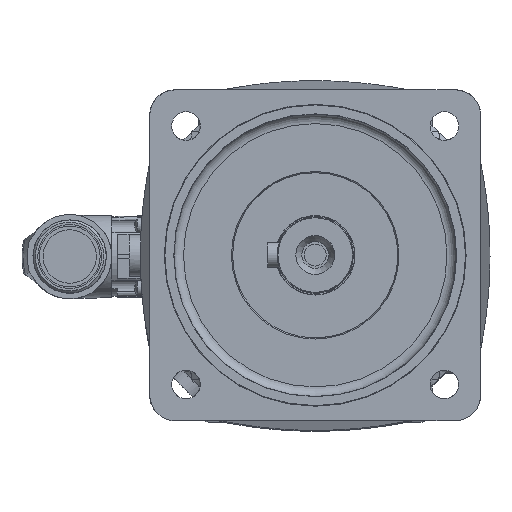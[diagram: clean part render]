
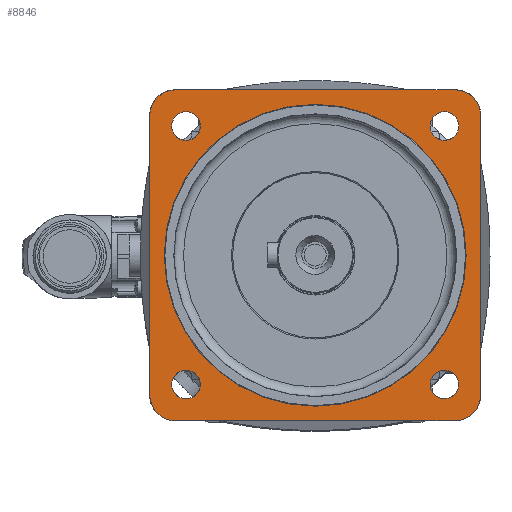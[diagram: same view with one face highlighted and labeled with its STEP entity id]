
A CAD part, top view. The second image highlights one B-rep face of the part: STEP entity #8846.
In plain terms, the highlighted planar face has unit normal (0, 0, 1).
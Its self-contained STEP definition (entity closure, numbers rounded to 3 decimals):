
#186=FACE_BOUND('',#1141,.T.);
#187=FACE_BOUND('',#1142,.T.);
#188=FACE_BOUND('',#1143,.T.);
#189=FACE_BOUND('',#1144,.T.);
#190=FACE_BOUND('',#1145,.T.);
#636=FACE_OUTER_BOUND('',#1140,.T.);
#1140=EDGE_LOOP('',(#6683,#6684,#6685,#6686,#6687,#6688,#6689,#6690));
#1141=EDGE_LOOP('',(#6691));
#1142=EDGE_LOOP('',(#6692));
#1143=EDGE_LOOP('',(#6693));
#1144=EDGE_LOOP('',(#6694));
#1145=EDGE_LOOP('',(#6695));
#2004=LINE('',#14535,#2675);
#2005=LINE('',#14539,#2676);
#2006=LINE('',#14543,#2677);
#2007=LINE('',#14547,#2678);
#2675=VECTOR('',#11399,10.);
#2676=VECTOR('',#11402,10.);
#2677=VECTOR('',#11405,10.);
#2678=VECTOR('',#11408,10.);
#3059=CIRCLE('',#9596,47.5);
#3060=CIRCLE('',#9598,8.052);
#3061=CIRCLE('',#9599,8.052);
#3062=CIRCLE('',#9600,8.052);
#3063=CIRCLE('',#9601,8.052);
#3064=CIRCLE('',#9602,4.5);
#3065=CIRCLE('',#9603,4.5);
#3066=CIRCLE('',#9604,4.5);
#3067=CIRCLE('',#9605,4.5);
#3723=VERTEX_POINT('',#14529);
#3724=VERTEX_POINT('',#14533);
#3725=VERTEX_POINT('',#14534);
#3726=VERTEX_POINT('',#14536);
#3727=VERTEX_POINT('',#14538);
#3728=VERTEX_POINT('',#14540);
#3729=VERTEX_POINT('',#14542);
#3730=VERTEX_POINT('',#14544);
#3731=VERTEX_POINT('',#14546);
#3732=VERTEX_POINT('',#14549);
#3733=VERTEX_POINT('',#14551);
#3734=VERTEX_POINT('',#14553);
#3735=VERTEX_POINT('',#14555);
#4780=EDGE_CURVE('',#3723,#3723,#3059,.T.);
#4781=EDGE_CURVE('',#3724,#3725,#2004,.T.);
#4782=EDGE_CURVE('',#3726,#3724,#3060,.T.);
#4783=EDGE_CURVE('',#3727,#3726,#2005,.T.);
#4784=EDGE_CURVE('',#3728,#3727,#3061,.T.);
#4785=EDGE_CURVE('',#3729,#3728,#2006,.T.);
#4786=EDGE_CURVE('',#3730,#3729,#3062,.T.);
#4787=EDGE_CURVE('',#3731,#3730,#2007,.T.);
#4788=EDGE_CURVE('',#3725,#3731,#3063,.T.);
#4789=EDGE_CURVE('',#3732,#3732,#3064,.T.);
#4790=EDGE_CURVE('',#3733,#3733,#3065,.T.);
#4791=EDGE_CURVE('',#3734,#3734,#3066,.T.);
#4792=EDGE_CURVE('',#3735,#3735,#3067,.T.);
#6683=ORIENTED_EDGE('',*,*,#4781,.F.);
#6684=ORIENTED_EDGE('',*,*,#4782,.F.);
#6685=ORIENTED_EDGE('',*,*,#4783,.F.);
#6686=ORIENTED_EDGE('',*,*,#4784,.F.);
#6687=ORIENTED_EDGE('',*,*,#4785,.F.);
#6688=ORIENTED_EDGE('',*,*,#4786,.F.);
#6689=ORIENTED_EDGE('',*,*,#4787,.F.);
#6690=ORIENTED_EDGE('',*,*,#4788,.F.);
#6691=ORIENTED_EDGE('',*,*,#4780,.T.);
#6692=ORIENTED_EDGE('',*,*,#4789,.T.);
#6693=ORIENTED_EDGE('',*,*,#4790,.T.);
#6694=ORIENTED_EDGE('',*,*,#4791,.T.);
#6695=ORIENTED_EDGE('',*,*,#4792,.T.);
#8009=PLANE('',#9597);
#8846=ADVANCED_FACE('',(#636,#186,#187,#188,#189,#190),#8009,.F.);
#9596=AXIS2_PLACEMENT_3D('',#14531,#11395,#11396);
#9597=AXIS2_PLACEMENT_3D('',#14532,#11397,#11398);
#9598=AXIS2_PLACEMENT_3D('',#14537,#11400,#11401);
#9599=AXIS2_PLACEMENT_3D('',#14541,#11403,#11404);
#9600=AXIS2_PLACEMENT_3D('',#14545,#11406,#11407);
#9601=AXIS2_PLACEMENT_3D('',#14548,#11409,#11410);
#9602=AXIS2_PLACEMENT_3D('',#14550,#11411,#11412);
#9603=AXIS2_PLACEMENT_3D('',#14552,#11413,#11414);
#9604=AXIS2_PLACEMENT_3D('',#14554,#11415,#11416);
#9605=AXIS2_PLACEMENT_3D('',#14556,#11417,#11418);
#11395=DIRECTION('center_axis',(0.,0.,
-1.));
#11396=DIRECTION('ref_axis',(-1.,0.,0.));
#11397=DIRECTION('center_axis',(0.,0.,
-1.));
#11398=DIRECTION('ref_axis',(-1.,0.,0.));
#11399=DIRECTION('',(1.,0.,0.));
#11400=DIRECTION('center_axis',(0.,0.,
-1.));
#11401=DIRECTION('ref_axis',(0.,1.,0.));
#11402=DIRECTION('',(0.,1.,0.));
#11403=DIRECTION('center_axis',(0.,0.,
-1.));
#11404=DIRECTION('ref_axis',(-1.,0.,0.));
#11405=DIRECTION('',(-1.,0.,0.));
#11406=DIRECTION('center_axis',(0.,0.,
-1.));
#11407=DIRECTION('ref_axis',(0.,-1.,0.));
#11408=DIRECTION('',(0.,-1.,0.));
#11409=DIRECTION('center_axis',(0.,0.,
-1.));
#11410=DIRECTION('ref_axis',(1.,0.,0.));
#11411=DIRECTION('center_axis',(0.,0.,
-1.));
#11412=DIRECTION('ref_axis',(-1.,0.,0.));
#11413=DIRECTION('center_axis',(0.,0.,
-1.));
#11414=DIRECTION('ref_axis',(-1.,0.,0.));
#11415=DIRECTION('center_axis',(0.,0.,
-1.));
#11416=DIRECTION('ref_axis',(-1.,0.,0.));
#11417=DIRECTION('center_axis',(0.,0.,
-1.));
#11418=DIRECTION('ref_axis',(-1.,0.,0.));
#14529=CARTESIAN_POINT('',(47.5,0.,0.));
#14531=CARTESIAN_POINT('Origin',(0.,0.,
0.));
#14532=CARTESIAN_POINT('Origin',(0.,0.,
0.));
#14533=CARTESIAN_POINT('',(-44.,52.052,0.));
#14534=CARTESIAN_POINT('',(44.,52.052,0.));
#14535=CARTESIAN_POINT('',(44.,52.052,0.));
#14536=CARTESIAN_POINT('',(-52.052,44.,0.));
#14537=CARTESIAN_POINT('Origin',(-44.,44.,0.));
#14538=CARTESIAN_POINT('',(-52.052,-44.,0.));
#14539=CARTESIAN_POINT('',(-52.052,44.,0.));
#14540=CARTESIAN_POINT('',(-44.,-52.052,0.));
#14541=CARTESIAN_POINT('Origin',(-44.,-44.,0.));
#14542=CARTESIAN_POINT('',(44.,-52.052,0.));
#14543=CARTESIAN_POINT('',(-44.,-52.052,0.));
#14544=CARTESIAN_POINT('',(52.052,-44.,0.));
#14545=CARTESIAN_POINT('Origin',(44.,-44.,0.));
#14546=CARTESIAN_POINT('',(52.052,44.,0.));
#14547=CARTESIAN_POINT('',(52.052,-44.,0.));
#14548=CARTESIAN_POINT('Origin',(44.,44.,0.));
#14549=CARTESIAN_POINT('',(45.159,40.659,0.));
#14550=CARTESIAN_POINT('Origin',(40.659,40.659,0.));
#14551=CARTESIAN_POINT('',(-36.159,40.659,0.));
#14552=CARTESIAN_POINT('Origin',(-40.659,40.659,0.));
#14553=CARTESIAN_POINT('',(-36.159,-40.659,0.));
#14554=CARTESIAN_POINT('Origin',(-40.659,-40.659,0.));
#14555=CARTESIAN_POINT('',(45.159,-40.659,0.));
#14556=CARTESIAN_POINT('Origin',(40.659,-40.659,0.));
